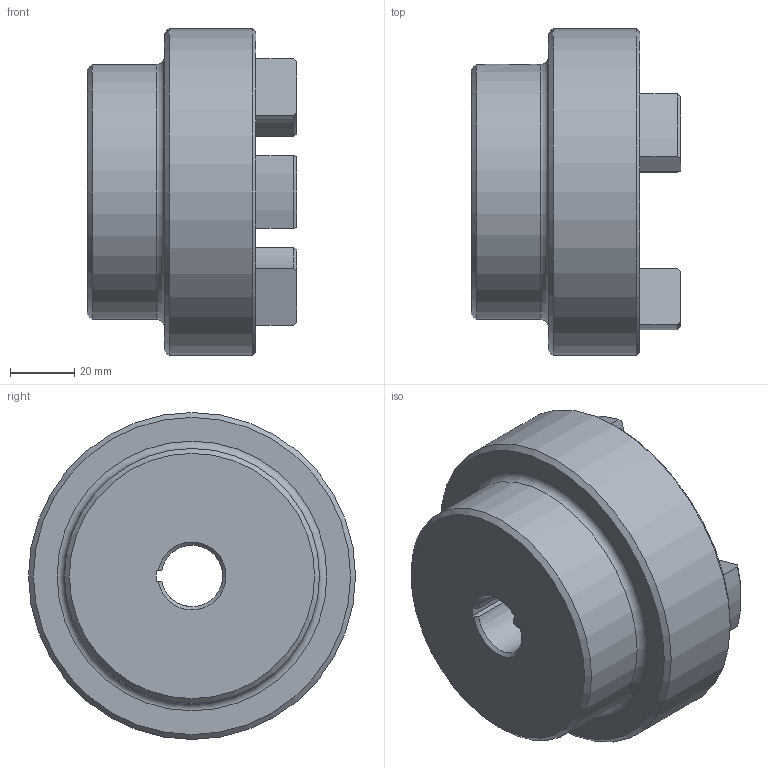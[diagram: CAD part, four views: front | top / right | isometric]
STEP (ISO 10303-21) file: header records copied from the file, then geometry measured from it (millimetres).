
FILE_DESCRIPTION (( 'STEP AP203' ), '1' );
FILE_NAME ('RC4.step', '2024-07-24T17:32:54', ( 'Adlan' ), ( '' ), 'SwSTEP 2.0', 'SolidWorks 2013', '' );
FILE_SCHEMA (( 'CONFIG_CONTROL_DESIGN' ));
Length unit declared in the file: inch
Products named in the file (1): RC4
Bounding box: 65.02 x 101.6 x 101.6 mm (x, y, z)
Volume: 268648.2 mm3; surface area: 40925.4 mm2
Topology: 1 solids, 1 shells, 70 faces, 180 edges, 113 vertices
Faces by surface type: cylinder 26, plane 19, torus 13, cone 12
Full cylindrical faces by diameter (mm): 5.105 x2, 79.248 x1, 101.6 x1
Entity records: 2383 total; most frequent: CARTESIAN_POINT 619, DIRECTION 370, ORIENTED_EDGE 332, EDGE_CURVE 166, AXIS2_PLACEMENT_3D 146, VERTEX_POINT 109, EDGE_LOOP 87, LINE 78
